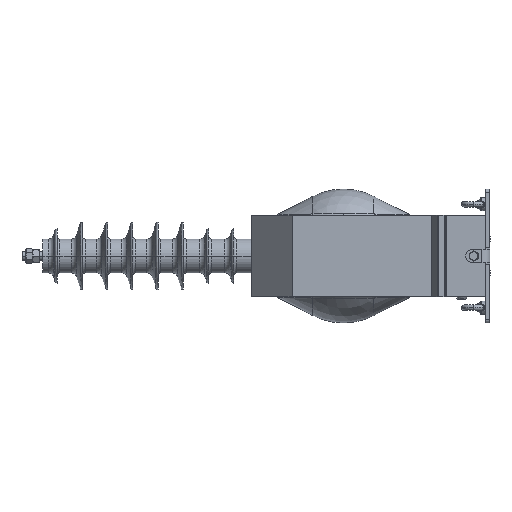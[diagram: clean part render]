
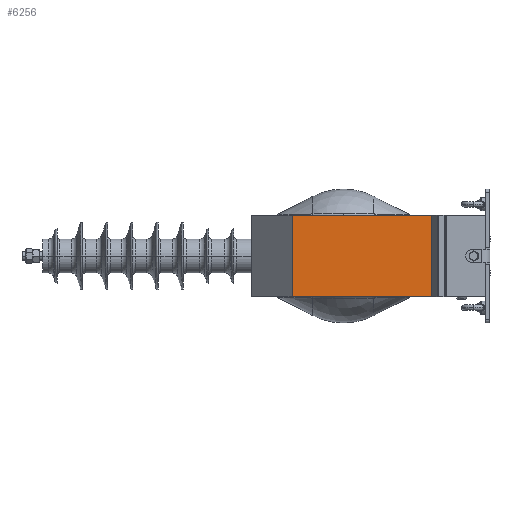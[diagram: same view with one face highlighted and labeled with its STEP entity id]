
A CAD part, left-side view. The second image highlights one B-rep face of the part: STEP entity #6256.
In plain terms, the highlighted planar face has unit normal (-1, 0, 0).
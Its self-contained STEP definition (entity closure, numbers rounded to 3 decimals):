
#124 = LINE ( 'NONE', #22835, #16488 ) ;
#2072 = DIRECTION ( 'NONE',  ( 0., 0., 1. ) ) ;
#2930 = VECTOR ( 'NONE', #2072, 1000. ) ;
#4653 = VERTEX_POINT ( 'NONE', #16754 ) ;
#6256 = ADVANCED_FACE ( 'NONE', ( #20678 ), #13010, .F. ) ;
#6949 = EDGE_CURVE ( 'NONE', #7761, #19198, #124, .T. ) ;
#7690 = LINE ( 'NONE', #12314, #2930 ) ;
#7761 = VERTEX_POINT ( 'NONE', #14341 ) ;
#7850 = CARTESIAN_POINT ( 'NONE',  ( -200., 86., -60. ) ) ;
#7879 = CARTESIAN_POINT ( 'NONE',  ( -200., 286., 60. ) ) ;
#10323 = DIRECTION ( 'NONE',  ( 0., 0., 1. ) ) ;
#12314 = CARTESIAN_POINT ( 'NONE',  ( -200., 293., -60. ) ) ;
#12653 = AXIS2_PLACEMENT_3D ( 'NONE', #7879, #23412, #31213 ) ;
#12936 = ORIENTED_EDGE ( 'NONE', *, *, #29699, .F. ) ;
#13010 = PLANE ( 'NONE',  #12653 ) ;
#13978 = VERTEX_POINT ( 'NONE', #7850 ) ;
#14341 = CARTESIAN_POINT ( 'NONE',  ( -200., 293., 60. ) ) ;
#15115 = EDGE_CURVE ( 'NONE', #13978, #19198, #28415, .T. ) ;
#16488 = VECTOR ( 'NONE', #30637, 1000. ) ;
#16754 = CARTESIAN_POINT ( 'NONE',  ( -200., 293., -60. ) ) ;
#17806 = EDGE_LOOP ( 'NONE', ( #25633, #32907, #18907, #12936 ) ) ;
#18907 = ORIENTED_EDGE ( 'NONE', *, *, #6949, .F. ) ;
#19198 = VERTEX_POINT ( 'NONE', #20491 ) ;
#20034 = LINE ( 'NONE', #30390, #24615 ) ;
#20491 = CARTESIAN_POINT ( 'NONE',  ( -200., 86., 60. ) ) ;
#20678 = FACE_OUTER_BOUND ( 'NONE', #17806, .T. ) ;
#21098 = CARTESIAN_POINT ( 'NONE',  ( -200., 86., -92.016 ) ) ;
#22835 = CARTESIAN_POINT ( 'NONE',  ( -200., 286., 60. ) ) ;
#23412 = DIRECTION ( 'NONE',  ( 1., 0., 0. ) ) ;
#24615 = VECTOR ( 'NONE', #33283, 1000. ) ;
#25633 = ORIENTED_EDGE ( 'NONE', *, *, #25981, .T. ) ;
#25695 = VECTOR ( 'NONE', #10323, 1000. ) ;
#25981 = EDGE_CURVE ( 'NONE', #4653, #13978, #20034, .T. ) ;
#28415 = LINE ( 'NONE', #21098, #25695 ) ;
#29699 = EDGE_CURVE ( 'NONE', #4653, #7761, #7690, .T. ) ;
#30390 = CARTESIAN_POINT ( 'NONE',  ( -200., 286., -60. ) ) ;
#30637 = DIRECTION ( 'NONE',  ( 0., -1., 0. ) ) ;
#31213 = DIRECTION ( 'NONE',  ( 0., 1., 0. ) ) ;
#32907 = ORIENTED_EDGE ( 'NONE', *, *, #15115, .T. ) ;
#33283 = DIRECTION ( 'NONE',  ( 0., -1., 0. ) ) ;
